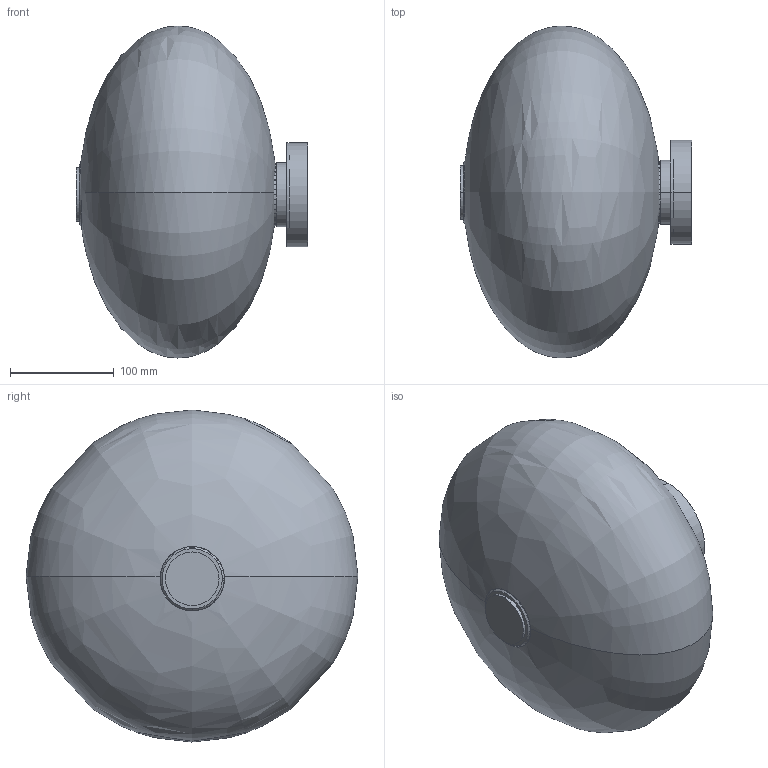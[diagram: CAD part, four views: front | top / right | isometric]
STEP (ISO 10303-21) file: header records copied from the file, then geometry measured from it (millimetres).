
FILE_DESCRIPTION (( 'STEP AP214' ), '1' );
FILE_NAME ('TOULON_A1365.STEP', '2026-07-03T09:42:25', ( '' ), ( '' ), 'SwSTEP 2.0', 'SolidWorks 2023', '' );
FILE_SCHEMA (( 'AUTOMOTIVE_DESIGN' ));
Length unit declared in the file: millimetre
Products named in the file (1): TOULON_A1365
Bounding box: 223 x 319.83 x 320 mm (x, y, z)
Volume: 2800676.8 mm3; surface area: 524178.9 mm2
Topology: 3 solids, 4 shells, 101 faces, 277 edges, 181 vertices
Faces by surface type: cylinder 49, plane 46, bspline 4, cone 2
Entity records: 3765 total; most frequent: CARTESIAN_POINT 1123, DIRECTION 557, ORIENTED_EDGE 542, EDGE_CURVE 271, AXIS2_PLACEMENT_3D 196, VERTEX_POINT 181, LINE 165, VECTOR 165
